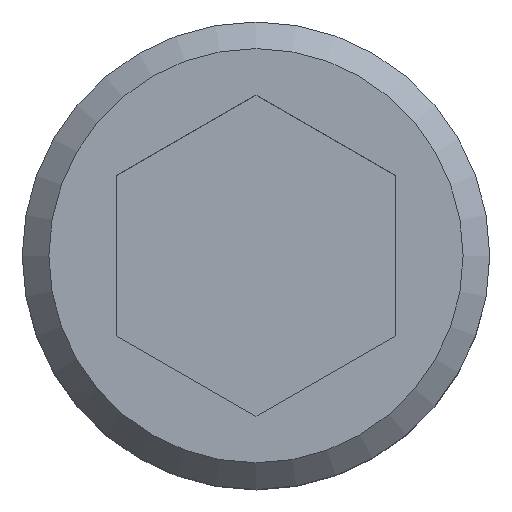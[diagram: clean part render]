
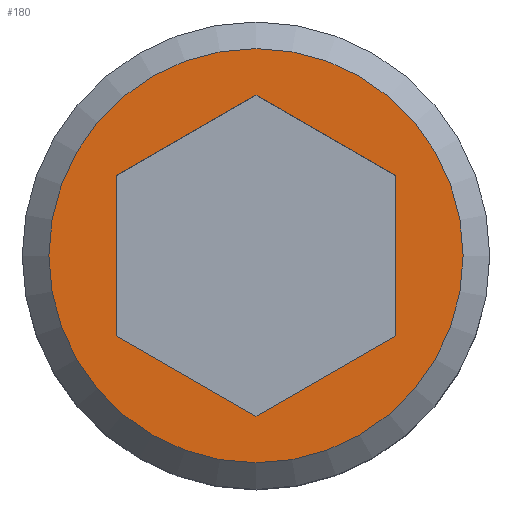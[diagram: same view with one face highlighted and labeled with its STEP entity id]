
A CAD part, top view. The second image highlights one B-rep face of the part: STEP entity #180.
In plain terms, the highlighted planar face has unit normal (0, 0, 1).
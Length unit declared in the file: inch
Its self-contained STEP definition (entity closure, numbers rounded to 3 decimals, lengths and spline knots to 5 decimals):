
#79=CARTESIAN_POINT('',(0.07,0.,0.11));
#80=VERTEX_POINT('',#79);
#81=CARTESIAN_POINT('',(0.0,0.0,0.11));
#82=DIRECTION('',(0.0,0.0,-1.0));
#83=DIRECTION('',(-1.0,0.0,0.0));
#84=AXIS2_PLACEMENT_3D('',#81,#82,#83);
#85=CIRCLE('',#84,0.07);
#86=EDGE_CURVE('',#80,#80,#85,.T.);
#122=CARTESIAN_POINT('',(0.0,0.0,0.11));
#123=DIRECTION('',(0.0,0.0,-1.0));
#124=DIRECTION('',(-1.0,0.0,0.0));
#125=AXIS2_PLACEMENT_3D('',#122,#123,#124);
#126=PLANE('',#125);
#127=ORIENTED_EDGE('',*,*,#86,.F.);
#128=EDGE_LOOP('',(#127));
#129=FACE_OUTER_BOUND('',#128,.T.);
#130=CARTESIAN_POINT('',(-0.047,-0.02714,0.11));
#131=VERTEX_POINT('',#130);
#132=CARTESIAN_POINT('',(-0.047,0.02714,0.11));
#133=VERTEX_POINT('',#132);
#134=CARTESIAN_POINT('',(-0.047,-0.02714,0.11));
#135=DIRECTION('',(0.0,1.0,0.0));
#136=VECTOR('',#135,0.05427);
#137=LINE('',#134,#136);
#138=EDGE_CURVE('',#131,#133,#137,.T.);
#139=ORIENTED_EDGE('',*,*,#138,.T.);
#140=CARTESIAN_POINT('',(0.,0.05427,0.11));
#141=VERTEX_POINT('',#140);
#142=CARTESIAN_POINT('',(-0.047,0.02714,0.11));
#143=DIRECTION('',(0.866,0.5,0.0));
#144=VECTOR('',#143,0.05427);
#145=LINE('',#142,#144);
#146=EDGE_CURVE('',#133,#141,#145,.T.);
#147=ORIENTED_EDGE('',*,*,#146,.T.);
#148=CARTESIAN_POINT('',(0.047,0.02714,0.11));
#149=VERTEX_POINT('',#148);
#150=CARTESIAN_POINT('',(0.,0.05427,0.11));
#151=DIRECTION('',(0.866,-0.5,0.0));
#152=VECTOR('',#151,0.05427);
#153=LINE('',#150,#152);
#154=EDGE_CURVE('',#141,#149,#153,.T.);
#155=ORIENTED_EDGE('',*,*,#154,.T.);
#156=CARTESIAN_POINT('',(0.047,-0.02714,0.11));
#157=VERTEX_POINT('',#156);
#158=CARTESIAN_POINT('',(0.047,0.02714,0.11));
#159=DIRECTION('',(0.0,-1.0,0.0));
#160=VECTOR('',#159,0.05427);
#161=LINE('',#158,#160);
#162=EDGE_CURVE('',#149,#157,#161,.T.);
#163=ORIENTED_EDGE('',*,*,#162,.T.);
#164=CARTESIAN_POINT('',(0.,-0.05427,0.11));
#165=VERTEX_POINT('',#164);
#166=CARTESIAN_POINT('',(0.047,-0.02714,0.11));
#167=DIRECTION('',(-0.866,-0.5,0.0));
#168=VECTOR('',#167,0.05427);
#169=LINE('',#166,#168);
#170=EDGE_CURVE('',#157,#165,#169,.T.);
#171=ORIENTED_EDGE('',*,*,#170,.T.);
#172=CARTESIAN_POINT('',(0.,-0.05427,0.11));
#173=DIRECTION('',(-0.866,0.5,0.0));
#174=VECTOR('',#173,0.05427);
#175=LINE('',#172,#174);
#176=EDGE_CURVE('',#165,#131,#175,.T.);
#177=ORIENTED_EDGE('',*,*,#176,.T.);
#178=EDGE_LOOP('',(#139,#147,#155,#163,#171,#177));
#179=FACE_BOUND('',#178,.T.);
#180=ADVANCED_FACE('',(#129,#179),#126,.F.);
